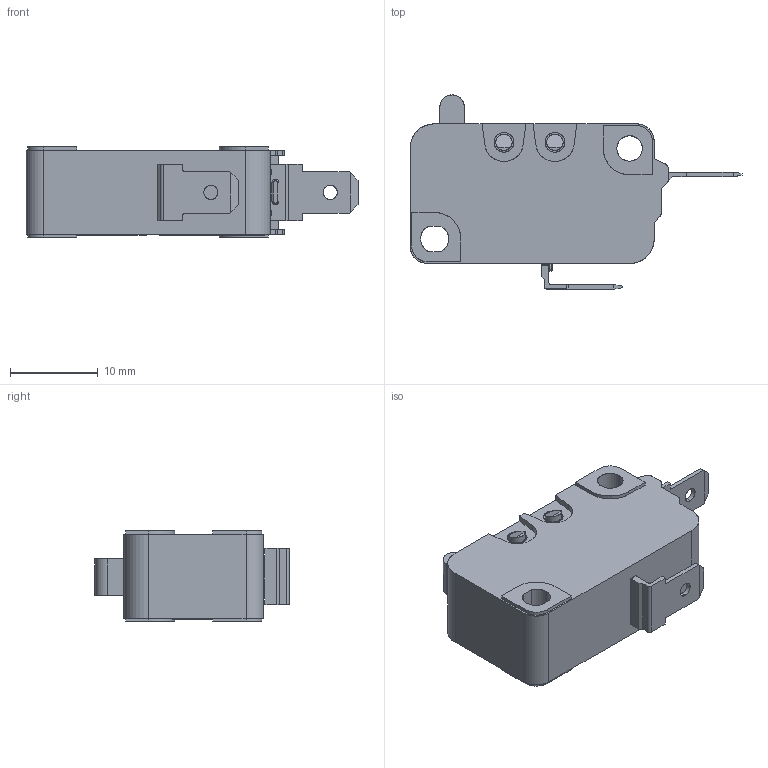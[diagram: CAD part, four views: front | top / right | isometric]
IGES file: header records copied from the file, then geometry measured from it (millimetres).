
Start section: SolidWorks IGES file using analytic representation for surfaces
Global section: file name: D:\temp\D3V-16G-2C25-K\D3V-16G-2C25-K.IGS; native system: SolidWorks 2012; preprocessor: SolidWorks 2012; author: PE; date: 130212.142754; units: millimetre
Bounding box: 37.8 x 22.1 x 10.3 mm (x, y, z)
Surface area: 2331.1 mm2 (no closed solid volume)
Topology: 0 solids, 0 shells, 639 faces, 6294 edges, 6294 vertices
Faces by surface type: bspline 573, revolution 66
